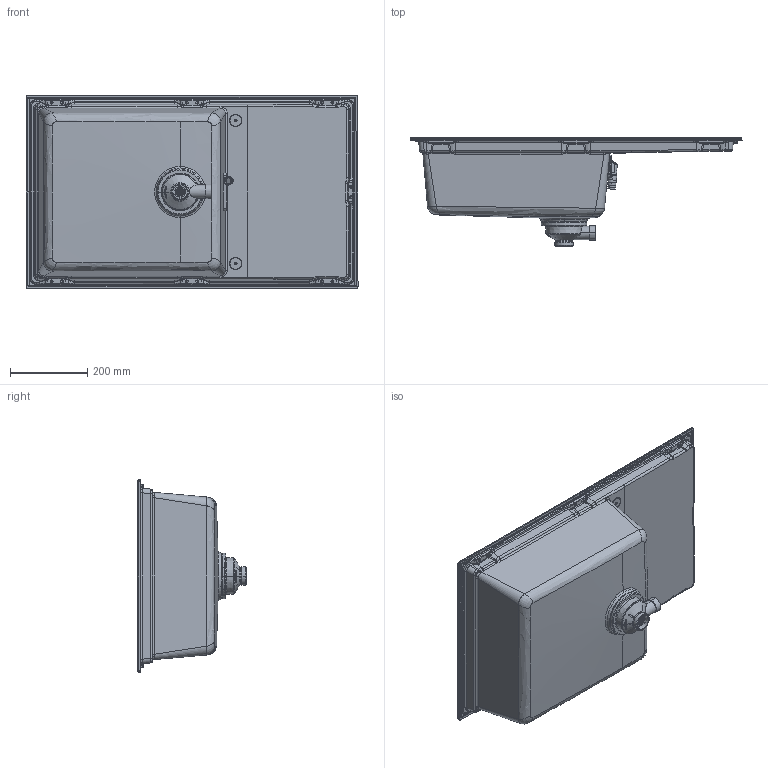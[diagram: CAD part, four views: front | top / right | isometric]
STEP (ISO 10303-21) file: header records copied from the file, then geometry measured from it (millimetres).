
FILE_DESCRIPTION (( 'STEP AP203' ), '1' );
FILE_NAME ('3d_sintesi_410.STEP', '2022-06-29T07:27:58', ( '' ), ( '' ), 'SwSTEP 2.0', 'SolidWorks 2021', '' );
FILE_SCHEMA (( 'CONFIG_CONTROL_DESIGN' ));
Products named in the file (4): 3d_sintesi_410; TP_rettangolare slim_anonima; 3d_piletta_2021_1via_X_ASSIEME_LAVELLI_Default<A macchina>; sintesi_410_SBORDATO
Assembly tree (3 placements, depth 2):
  3d_sintesi_410
    sintesi_410_SBORDATO
    3d_piletta_2021_1via_X_ASSIEME_LAVELLI_Default<A macchina>
    TP_rettangolare slim_anonima
Bounding box: 860 x 280.96 x 500 mm (x, y, z)
Volume: 5990703.2 mm3; surface area: 1661326.2 mm2
Topology: 10 solids, 10 shells, 4030 faces, 10046 edges, 6078 vertices
Faces by surface type: bspline 1555, cylinder 977, plane 856, cone 405, torus 229, sphere 8
Entity records: 226289 total; most frequent: CARTESIAN_POINT 142599, ORIENTED_EDGE 19928, DIRECTION 13712, EDGE_CURVE 9964, VERTEX_POINT 6077, AXIS2_PLACEMENT_3D 5299, EDGE_LOOP 4239, ADVANCED_FACE 4030
